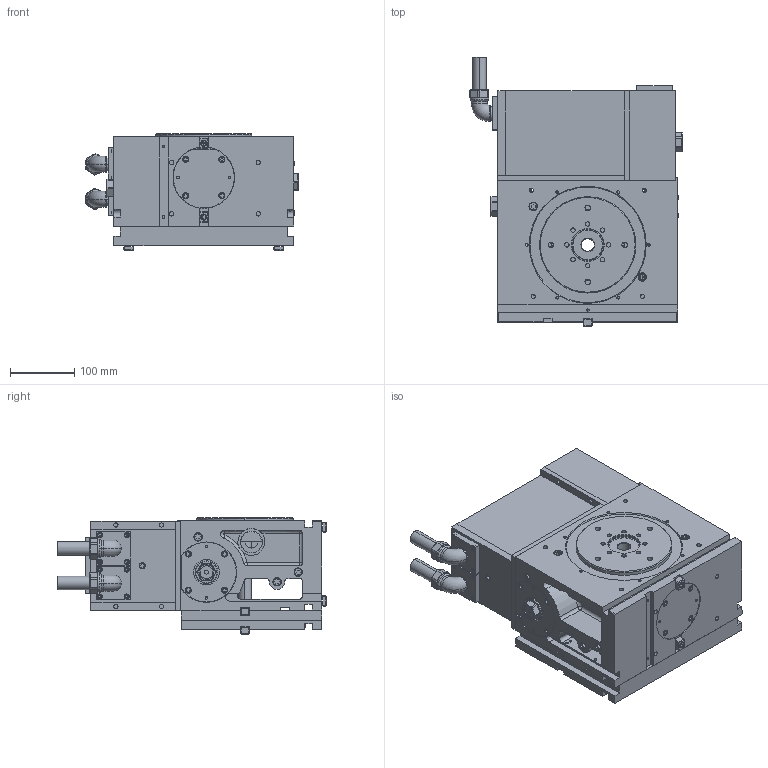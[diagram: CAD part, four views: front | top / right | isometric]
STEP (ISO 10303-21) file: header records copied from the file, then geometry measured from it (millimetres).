
FILE_DESCRIPTION (( 'STEP AP203' ), '1' );
FILE_NAME ('1505968 MDE150R-49.STEP', '2020-12-05T05:34:58', ( '' ), ( '' ), 'SwSTEP 2.0', 'SolidWorks 2019', '' );
FILE_SCHEMA (( 'CONFIG_CONTROL_DESIGN' ));
Length unit declared in the file: millimetre
Products named in the file (1): 1505968 MDE150R-49
Bounding box: 330.6 x 419 x 182 mm (x, y, z)
Surface area: 795876.7 mm2 (no closed solid volume)
Topology: 0 solids, 84 shells, 1168 faces, 3368 edges, 2278 vertices
Faces by surface type: plane 674, cylinder 348, cone 126, torus 14, sphere 6
Entity records: 38366 total; most frequent: CARTESIAN_POINT 7044, DIRECTION 6797, ORIENTED_EDGE 5697, EDGE_CURVE 3364, AXIS2_PLACEMENT_3D 2313, VERTEX_POINT 2278, LINE 2171, VECTOR 2171
